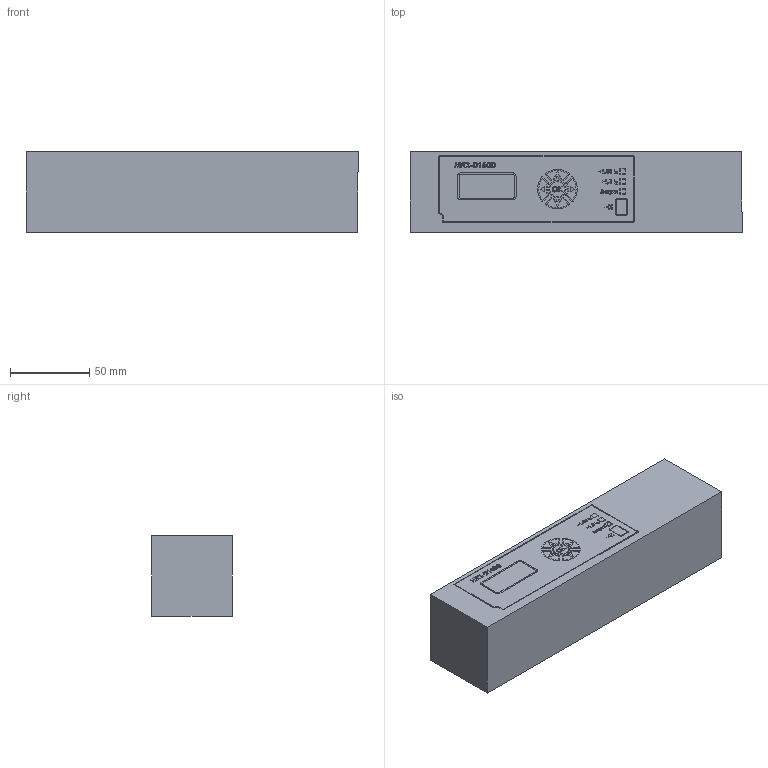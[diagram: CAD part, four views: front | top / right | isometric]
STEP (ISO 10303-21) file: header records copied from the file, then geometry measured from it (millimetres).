
FILE_DESCRIPTION (( 'STEP AP214' ), '1' );
FILE_NAME ('OptiMat D1600 áëîê MR2.STEP', '2023-07-24T08:23:01', ( '' ), ( '' ), 'SwSTEP 2.0', 'SolidWorks 2018', '' );
FILE_SCHEMA (( 'AUTOMOTIVE_DESIGN' ));
Length unit declared in the file: millimetre
Products named in the file (3): OptiMat D1600 摠鍧 MR2; ä1600_-01; 枟謤麃鍒罻 MR2 1600
Assembly tree (2 placements, depth 2):
  OptiMat D1600 摠鍧 MR2
    ä1600_-01
    枟謤麃鍒罻 MR2 1600
Bounding box: 210 x 51 x 51 mm (x, y, z)
Volume: 547489 mm3; surface area: 58361.3 mm2
Topology: 2 solids, 2 shells, 590 faces, 1565 edges, 1054 vertices
Faces by surface type: plane 330, bspline 169, cylinder 91
Entity records: 26315 total; most frequent: CARTESIAN_POINT 12455, ORIENTED_EDGE 3130, DIRECTION 2277, EDGE_CURVE 1565, VERTEX_POINT 1054, LINE 1029, VECTOR 1029, EDGE_LOOP 667
